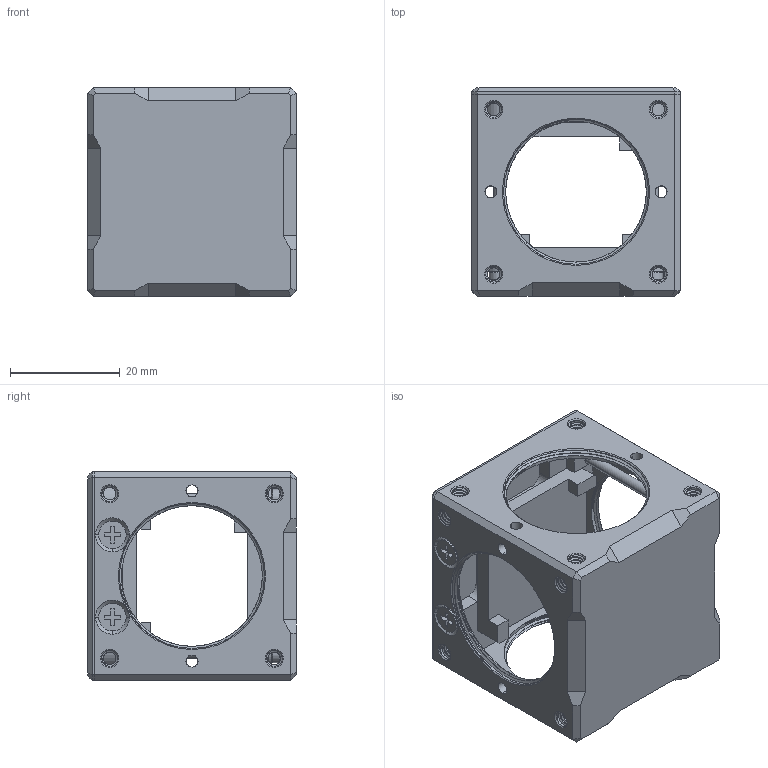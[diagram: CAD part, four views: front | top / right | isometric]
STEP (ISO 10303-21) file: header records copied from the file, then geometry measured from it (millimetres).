
FILE_DESCRIPTION (( 'STEP AP214' ), '1' );
FILE_NAME ('csl30_m2_asm.STEP', '2021-12-07T04:23:35', ( '' ), ( '' ), 'SwSTEP 2.0', 'SolidWorks 2021', '' );
FILE_SCHEMA (( 'AUTOMOTIVE_DESIGN' ));
Length unit declared in the file: millimetre
Products named in the file (10): CSL30-M2_A5.STEP; CSL30-M2_A1.STEP; M2X30_HM.STEP; csl30-m2^csl30_pz_asm(2).STEP; csl30_m2_asm.STEP; M3X5_KM.STEP; csl30_pz_asm(2).STEP; CSL30-M2_A2.STEP; csl30_m2_asm; CSL30-M2_A3.STEP
Assembly tree (15 placements, depth 5):
  csl30_m2_asm
    csl30_m2_asm.STEP
      csl30_pz_asm(2).STEP
        csl30-m2^csl30_pz_asm(2).STEP
          CSL30-M2_A1.STEP
          CSL30-M2_A2.STEP
          M3X5_KM.STEP  x4
          CSL30-M2_A3.STEP
          CSL30-M2_A5.STEP  x2
          M2X30_HM.STEP  x3
Bounding box: 38 x 38 x 38 mm (x, y, z)
Volume: 20491.2 mm3; surface area: 19808.2 mm2
Topology: 12 solids, 12 shells, 1017 faces, 2735 edges, 1736 vertices
Faces by surface type: cylinder 449, plane 241, bspline 212, cone 115
Entity records: 61555 total; most frequent: CARTESIAN_POINT 41581, ORIENTED_EDGE 4824, DIRECTION 2904, EDGE_CURVE 2412, VERTEX_POINT 1536, B_SPLINE_CURVE_WITH_KNOTS 1234, AXIS2_PLACEMENT_3D 1035, EDGE_LOOP 948
